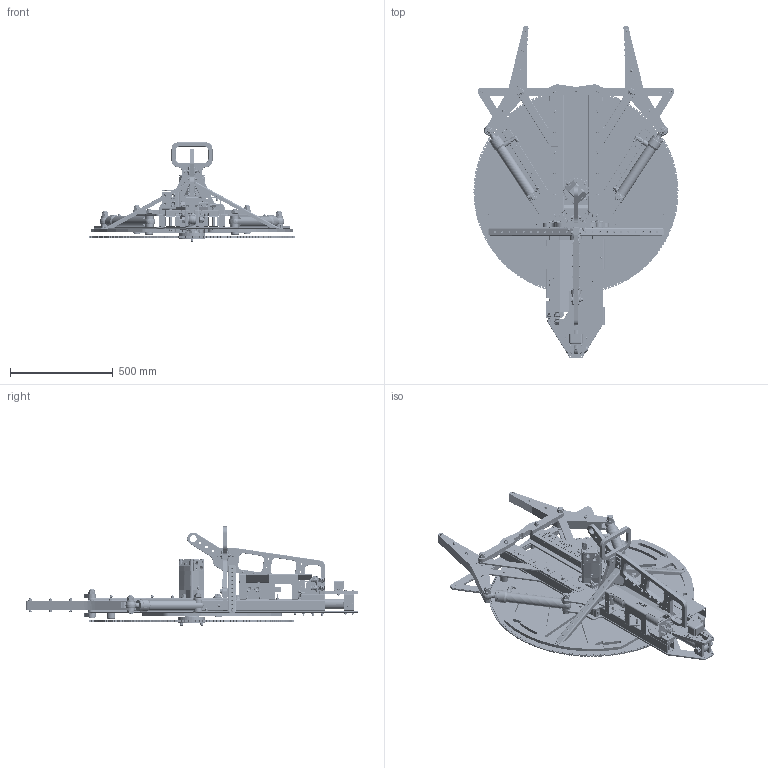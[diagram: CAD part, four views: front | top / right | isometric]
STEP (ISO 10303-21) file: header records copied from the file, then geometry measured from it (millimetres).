
FILE_DESCRIPTION(/* description */ (''),/* implementation_level */ '2;1');
FILE_NAME(/* name */ 'IKM-1056585 - SUBSEA SAW 406mm-16_SOLID.stp',/* time_stamp */ '2025-08-20T11:53:34+02:00',/* author */ ('KateB'),/* organization */ (''),/* preprocessor_version */ 'ST-DEVELOPER v19.2',/* originating_system */ 'Autodesk Inventor 2023',/* authorisation */ '');
FILE_SCHEMA (('CONFIG_CONTROL_DESIGN'));
Products named in the file (1): IKM-1056585 - SUBSEA SAW Ø406mm-16_SOLID
Bounding box: 999.97 x 1618.74 x 483.1 mm (x, y, z)
Volume: 27722693.3 mm3; surface area: 6020036 mm2
Topology: 6 solids, 117 shells, 11070 faces, 27761 edges, 17480 vertices
Faces by surface type: plane 5302, cylinder 3150, cone 1449, torus 622, bspline 476, sphere 71
Full cylindrical faces by diameter (mm): 0.788 x2, 2.2 x4, 2.431 x4, 4.7 x2, 5 x8, 5.3 x4, 5.5 x4, 6 x56, 6.4 x27, 6.5 x108, 6.647 x3, 6.9 x4, 7 x25, 7.2 x1, 7.323 x26, 7.5 x6, 7.95 x1, 8 x84, 8.376 x6, 8.4 x76, 8.5 x78, 8.7 x3, 8.9 x21, 9 x20, 10 x36, 10.1 x4, 10.2 x4, 10.5 x31, 10.8 x4, 11 x2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
Entity records: 336251 total; most frequent: CARTESIAN_POINT 71833, ORIENTED_EDGE 55406, DIRECTION 55015, EDGE_CURVE 27703, AXIS2_PLACEMENT_3D 20338, VERTEX_POINT 17480, LINE 14339, VECTOR 14339
